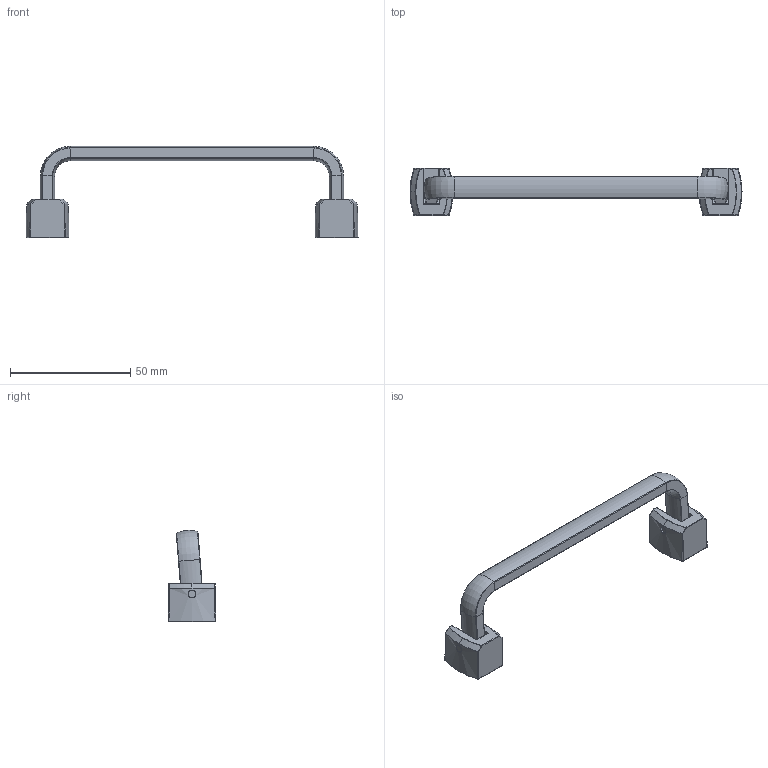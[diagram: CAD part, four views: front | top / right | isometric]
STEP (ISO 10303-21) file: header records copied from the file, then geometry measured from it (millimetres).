
FILE_DESCRIPTION (( 'STEP AP203' ), '1' );
FILE_NAME ('XG01-101-3.STEP', '2025-04-03T08:44:17', ( '微软用户' ), ( '微软中国' ), 'SwSTEP 2.0', 'SolidWorks 2024', '' );
FILE_SCHEMA (( 'CONFIG_CONTROL_DESIGN' ));
Length unit declared in the file: millimetre
Products named in the file (1): XG01-101-3
Bounding box: 137.84 x 19.79 x 37.95 mm (x, y, z)
Volume: 16260.6 mm3; surface area: 9462.7 mm2
Topology: 8 solids, 8 shells, 762 faces, 2098 edges, 1348 vertices
Faces by surface type: plane 548, cylinder 94, torus 40, bspline 38, cone 30, sphere 12
Entity records: 30123 total; most frequent: CARTESIAN_POINT 10629, ORIENTED_EDGE 4168, DIRECTION 3996, EDGE_CURVE 2084, VECTOR 1350, LINE 1350, VERTEX_POINT 1346, AXIS2_PLACEMENT_3D 1323
